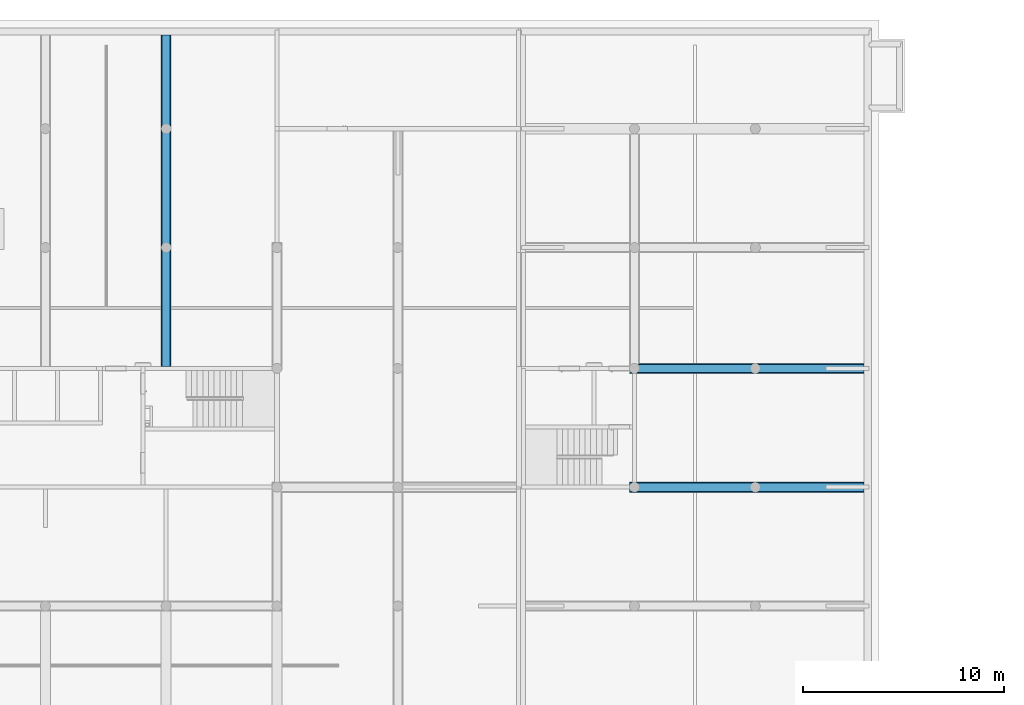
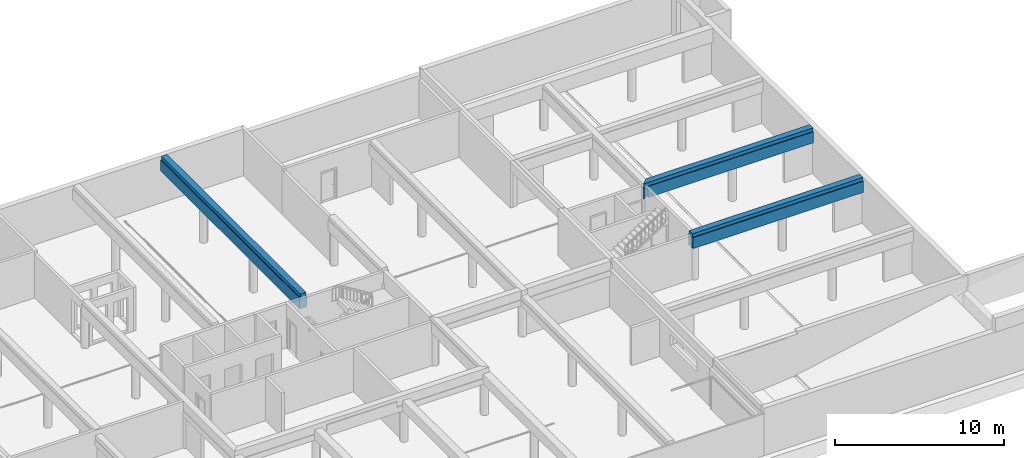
# One storey, part 11 of 25: 3 beams.
"""IFC2X3 building model written with IfcOpenShell, lengths in millimetres."""

from ifc_helpers import new_model, entity, si_unit, converted_unit, derived_unit, money_unit, direction, frame, origin_with_axes, place, context, subcontext, project, spatial, faceted_brep, material, material_list, type_object, element, save


model = new_model("IFC2X3")

# Units and contexts
model_context = context("Model", 3, precision=0.01, world=origin_with_axes(), true_north=direction((0.34421633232, 0.938890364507)))
body_context = subcontext(model_context, "Body", "Model", "MODEL_VIEW")
ifc_project = project(units=[si_unit("LENGTHUNIT", "METRE", prefix="MILLI"), si_unit("AREAUNIT", "SQUARE_METRE"), si_unit("VOLUMEUNIT", "CUBIC_METRE"), converted_unit("PLANEANGLEUNIT", "DEGREE", entity("IfcPlaneAngleMeasure", 0.0174532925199), si_unit("PLANEANGLEUNIT", "RADIAN"), dimensions=[0, 0, 0, 0, 0, 0, 0]), si_unit("SOLIDANGLEUNIT", "STERADIAN"), money_unit("USD"), converted_unit("TIMEUNIT", "Year", entity("IfcTimeMeasure", 31556926.0), si_unit("TIMEUNIT", "SECOND"), dimensions=[0, 0, 1, 0, 0, 0, 0]), si_unit("MASSUNIT", "GRAM", prefix="KILO"), si_unit("THERMODYNAMICTEMPERATUREUNIT", "DEGREE_CELSIUS"), si_unit("LUMINOUSINTENSITYUNIT", "LUMEN"), si_unit("ENERGYUNIT", "JOULE", prefix="MEGA"), derived_unit("THERMALCONDUCTANCEUNIT", [(si_unit("POWERUNIT", "WATT"), 1), (si_unit("LENGTHUNIT", "METRE"), -1), (si_unit("THERMODYNAMICTEMPERATUREUNIT", "KELVIN"), -1)]), derived_unit("SPECIFICHEATCAPACITYUNIT", [(si_unit("ENERGYUNIT", "JOULE"), 1), (si_unit("MASSUNIT", "GRAM", prefix="KILO"), -1), (si_unit("THERMODYNAMICTEMPERATUREUNIT", "KELVIN"), -1)]), derived_unit("MASSDENSITYUNIT", [(si_unit("MASSUNIT", "GRAM", prefix="KILO"), 1), (si_unit("VOLUMEUNIT", "CUBIC_METRE"), -1)])], contexts=[model_context])

# Site, building, storey
site_placement = place(None, origin_with_axes())
site = spatial("IfcSite", under=ifc_project, at=site_placement, Name="USTRONIE MORSKIE", CompositionType="ELEMENT")
building_placement = place(site_placement, origin_with_axes())
building = spatial("IfcBuilding", under=site, at=building_placement, Name="Budynek", CompositionType="ELEMENT")
storey_placement = place(building_placement, frame((0.0, 0.0, -3600.0), z_axis=(0.0, 0.0, 1.0), x_axis=(1.0, 0.0, 0.0)))
storey = spatial("IfcBuildingStorey", under=building, at=storey_placement, Name="GARAZ", CompositionType="ELEMENT", Elevation=-3600.0)

# Beams
ifc_material_1 = material(Name="Termoizolacja WEŁNA SKALNA")
ifc_material_2 = material(Name="Beton konstrukcyjny 01")
ifc_material_list = material_list([ifc_material_1, ifc_material_2])
beam_type = type_object("IfcBeamType", Name="GARAŻ P01 500 x 1050", PredefinedType="NOTDEFINED")
beam_1_placement = place(storey_placement, frame((390817.920919, 732901.199036, 3370.00030619), z_axis=(0.0, 0.0, 1.0), x_axis=(1.0, 0.0, 0.0)))
element("IfcBeam", 1, at=beam_1_placement, inside=storey, type_object=beam_type, material=ifc_material_list, Name="B1", context=body_context, shape_type="Brep", body=[
    faceted_brep([(160.696902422, 11991.5111108, -1000.0), (191.51111078, 11960.6969024, -1000.0), (199.99999553, 11948.5735186, -1000.0), (199.99999553, 16450.0, -1000.00000224), (-200.000002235, 16450.0, -1000.00000224), (-200.000002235, 11948.573509, -1000.0), (-191.51111078, 11960.6969024, -1000.0), (-160.696902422, 11991.5111108, -1000.0), (-125.0, 12016.5063509, -1000.0), (-85.5050358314, 12034.9231552, -1000.0), (-43.4120444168, 12046.2019383, -1000.0), (0.0, 12050.0, -1000.0), (43.4120444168, 12046.2019383, -1000.0), (85.5050358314, 12034.9231552, -1000.0), (125.0, 12016.5063509, -1000.0), (160.696902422, 11991.5111108, -1050.0), (191.51111078, 11960.6969024, -1050.0), (216.506350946, 11925.0, -1050.0), (216.506350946, 11925.0, -1000.0), (199.99999553, 11651.4264814, -1000.0), (199.99999553, 6048.57351859, -1000.0), (199.99999553, 5751.42648141, -1000.0), (199.99999553, 0.0, -1000.00000224), (199.99999553, 0.0, -250.00000447), (199.99999553, 16450.0, -250.00000447), (-250.0, 16450.0, -1050.0), (-250.0, 16450.0, -250.00000447), (-200.000002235, 16450.0, -250.00000447), (249.999993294, 16450.0, -250.00000447), (249.999993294, 16450.0, -1050.0), (-200.000002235, 11651.426491, -1000.0), (-200.000002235, 0.0, -250.00000447), (-200.000002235, 0.0, -1000.00000224), (-200.000002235, 5751.42649099, -1000.0), (-200.000002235, 6048.57350901, -1000.0), (-216.506350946, 11925.0, -1000.0), (-216.506350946, 11925.0, -1050.0), (-191.51111078, 11960.6969024, -1050.0), (-160.696902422, 11991.5111108, -1050.0), (-125.0, 12016.5063509, -1050.0), (-85.5050358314, 12034.9231552, -1050.0), (-43.4120444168, 12046.2019383, -1050.0), (0.0, 12050.0, -1050.0), (43.4120444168, 12046.2019383, -1050.0), (85.5050358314, 12034.9231552, -1050.0), (125.0, 12016.5063509, -1050.0), (-246.201938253, 11843.4120444, -1050.0), (-250.0, 11800.0, -1050.0), (250.0, 11800.0, -1050.0), (246.201938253, 11843.4120444, -1050.0), (234.923155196, 11885.5050358, -1050.0), (-234.923155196, 11885.5050358, -1050.0), (234.923155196, 11885.5050358, -1000.0), (246.201938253, 11843.4120444, -1000.0), (250.0, 11800.0, -1000.0), (246.201938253, 11756.5879556, -1000.0), (234.923155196, 11714.4949642, -1000.0), (216.506350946, 11675.0, -1000.0), (-191.51111078, 11639.3030976, -1000.0), (-191.51111078, 6060.69690242, -1000.0), (-160.696902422, 6091.51111078, -1000.0), (-125.0, 6116.50635095, -1000.0), (-85.5050358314, 6134.9231552, -1000.0), (-43.4120444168, 6146.20193825, -1000.0), (0.0, 6150.0, -1000.0), (43.4120444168, 6146.20193825, -1000.0), (85.5050358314, 6134.9231552, -1000.0), (125.0, 6116.50635095, -1000.0), (160.696902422, 6091.51111078, -1000.0), (191.51111078, 6060.69690242, -1000.0), (191.51111078, 11639.3030976, -1000.0), (160.696902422, 11608.4888892, -1000.0), (125.0, 11583.4936491, -1000.0), (85.5050358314, 11565.0768448, -1000.0), (43.4120444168, 11553.7980617, -1000.0), (0.0, 11550.0, -1000.0), (-43.4120444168, 11553.7980617, -1000.0), (-85.5050358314, 11565.0768448, -1000.0), (-125.0, 11583.4936491, -1000.0), (-160.696902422, 11608.4888892, -1000.0), (216.506350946, 6025.0, -1000.0), (234.923155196, 5985.50503583, -1000.0), (246.201938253, 5943.41204442, -1000.0), (250.0, 5900.0, -1000.0), (246.201938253, 5856.58795558, -1000.0), (234.923155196, 5814.49496417, -1000.0), (216.506350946, 5775.0, -1000.0), (-191.51111078, 5739.30309758, -1000.0), (191.51111078, 5739.30309758, -1000.0), (160.696902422, 5708.48888922, -1000.0), (125.0, 5683.49364905, -1000.0), (85.5050358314, 5665.0768448, -1000.0), (43.4120444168, 5653.79806175, -1000.0), (0.0, 5650.0, -1000.0), (-43.4120444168, 5653.79806175, -1000.0), (-85.5050358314, 5665.0768448, -1000.0), (-125.0, 5683.49364905, -1000.0), (-160.696902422, 5708.48888922, -1000.0), (-250.0, 0.0, -250.00000447), (-250.0, 0.0, -1050.0), (249.999993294, 0.0, -1050.0), (249.999993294, 0.0, -250.00000447), (-250.0, 5900.0, -1050.0), (250.0, 5900.0, -1050.0), (-216.506350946, 11675.0, -1000.0), (-234.923155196, 11714.4949642, -1000.0), (-246.201938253, 11756.5879556, -1000.0), (-250.0, 11800.0, -1000.0), (-246.201938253, 11843.4120444, -1000.0), (-234.923155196, 11885.5050358, -1000.0), (-216.506350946, 5775.0, -1000.0), (-234.923155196, 5814.49496417, -1000.0), (-246.201938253, 5856.58795558, -1000.0), (-250.0, 5900.0, -1000.0), (-246.201938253, 5943.41204442, -1000.0), (-234.923155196, 5985.50503583, -1000.0), (-216.506350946, 6025.0, -1000.0), (246.201938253, 11756.5879556, -1050.0), (234.923155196, 11714.4949642, -1050.0), (216.506350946, 11675.0, -1050.0), (191.51111078, 11639.3030976, -1050.0), (-191.51111078, 11639.3030976, -1050.0), (-216.506350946, 11675.0, -1050.0), (-216.506350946, 6025.0, -1050.0), (-191.51111078, 6060.69690242, -1050.0), (-160.696902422, 6091.51111078, -1050.0), (-125.0, 6116.50635095, -1050.0), (-85.5050358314, 6134.9231552, -1050.0), (-43.4120444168, 6146.20193825, -1050.0), (0.0, 6150.0, -1050.0), (43.4120444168, 6146.20193825, -1050.0), (85.5050358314, 6134.9231552, -1050.0), (125.0, 6116.50635095, -1050.0), (160.696902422, 6091.51111078, -1050.0), (191.51111078, 6060.69690242, -1050.0), (216.506350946, 6025.0, -1050.0), (160.696902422, 11608.4888892, -1050.0), (125.0, 11583.4936491, -1050.0), (85.5050358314, 11565.0768448, -1050.0), (43.4120444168, 11553.7980617, -1050.0), (0.0, 11550.0, -1050.0), (-43.4120444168, 11553.7980617, -1050.0), (-85.5050358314, 11565.0768448, -1050.0), (-125.0, 11583.4936491, -1050.0), (-160.696902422, 11608.4888892, -1050.0), (234.923155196, 5985.50503583, -1050.0), (246.201938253, 5943.41204442, -1050.0), (246.201938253, 5856.58795558, -1050.0), (234.923155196, 5814.49496417, -1050.0), (216.506350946, 5775.0, -1050.0), (191.51111078, 5739.30309758, -1050.0), (-191.51111078, 5739.30309758, -1050.0), (-216.506350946, 5775.0, -1050.0), (160.696902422, 5708.48888922, -1050.0), (125.0, 5683.49364905, -1050.0), (85.5050358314, 5665.0768448, -1050.0), (43.4120444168, 5653.79806175, -1050.0), (0.0, 5650.0, -1050.0), (-43.4120444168, 5653.79806175, -1050.0), (-85.5050358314, 5665.0768448, -1050.0), (-125.0, 5683.49364905, -1050.0), (-160.696902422, 5708.48888922, -1050.0), (-246.201938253, 5856.58795558, -1050.0), (-234.923155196, 5814.49496417, -1050.0), (-234.923155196, 5985.50503583, -1050.0), (-246.201938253, 5943.41204442, -1050.0), (-246.201938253, 11756.5879556, -1050.0), (-234.923155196, 11714.4949642, -1050.0)], [[[0, 1, 2, 3, 4, 5, 6, 7, 8, 9, 10, 11, 12, 13, 14]], [[1, 0, 15, 16]], [[16, 17, 18, 2, 1]], [[2, 19, 20, 21, 22, 23, 24, 3]], [[25, 26, 27, 4, 3, 24, 28, 29]], [[30, 5, 4, 27, 31, 32, 33, 34]], [[6, 5, 35, 36, 37]], [[7, 6, 37, 38]], [[8, 7, 38, 39]], [[9, 8, 39, 40]], [[10, 9, 40, 41]], [[11, 10, 41, 42]], [[12, 11, 42, 43]], [[13, 12, 43, 44]], [[14, 13, 44, 45]], [[0, 14, 45, 15]], [[46, 47, 25, 29, 48, 49, 50, 17, 16, 15, 45, 44, 43, 42, 41, 40, 39, 38, 37, 36, 51]], [[17, 50, 52, 18]], [[19, 2, 18, 52, 53, 54, 55, 56, 57]], [[58, 30, 34, 59, 60, 61, 62, 63, 64, 65, 66, 67, 68, 69, 20, 19, 70, 71, 72, 73, 74, 75, 76, 77, 78, 79]], [[21, 20, 80, 81, 82, 83, 84, 85, 86]], [[87, 33, 32, 22, 21, 88, 89, 90, 91, 92, 93, 94, 95, 96, 97]], [[22, 32, 31, 98, 99, 100, 101, 23]], [[23, 101, 28, 24]], [[99, 98, 26, 25, 47, 102]], [[98, 31, 27, 26]], [[101, 100, 103, 48, 29, 28]], [[5, 30, 104, 105, 106, 107, 108, 109, 35]], [[34, 33, 110, 111, 112, 113, 114, 115, 116]], [[51, 36, 35, 109]], [[47, 46, 108, 107]], [[49, 48, 54, 53]], [[50, 49, 53, 52]], [[46, 51, 109, 108]], [[48, 117, 55, 54]], [[117, 118, 56, 55]], [[118, 119, 57, 56]], [[119, 120, 70, 19, 57]], [[30, 58, 121, 122, 104]], [[59, 34, 116, 123, 124]], [[60, 59, 124, 125]], [[61, 60, 125, 126]], [[62, 61, 126, 127]], [[63, 62, 127, 128]], [[64, 63, 128, 129]], [[65, 64, 129, 130]], [[66, 65, 130, 131]], [[67, 66, 131, 132]], [[68, 67, 132, 133]], [[69, 68, 133, 134]], [[134, 135, 80, 20, 69]], [[71, 70, 120, 136]], [[72, 71, 136, 137]], [[73, 72, 137, 138]], [[74, 73, 138, 139]], [[75, 74, 139, 140]], [[76, 75, 140, 141]], [[77, 76, 141, 142]], [[78, 77, 142, 143]], [[79, 78, 143, 144]], [[58, 79, 144, 121]], [[135, 145, 81, 80]], [[145, 146, 82, 81]], [[146, 103, 83, 82]], [[103, 147, 84, 83]], [[147, 148, 85, 84]], [[148, 149, 86, 85]], [[149, 150, 88, 21, 86]], [[33, 87, 151, 152, 110]], [[89, 88, 150, 153]], [[90, 89, 153, 154]], [[91, 90, 154, 155]], [[92, 91, 155, 156]], [[93, 92, 156, 157]], [[94, 93, 157, 158]], [[95, 94, 158, 159]], [[96, 95, 159, 160]], [[97, 96, 160, 161]], [[87, 97, 161, 151]], [[148, 147, 103, 100, 99, 102, 162, 163, 152, 151, 161, 160, 159, 158, 157, 156, 155, 154, 153, 150, 149]], [[118, 117, 48, 103, 146, 145, 135, 134, 133, 132, 131, 130, 129, 128, 127, 126, 125, 124, 123, 164, 165, 102, 47, 166, 167, 122, 121, 144, 143, 142, 141, 140, 139, 138, 137, 136, 120, 119]], [[122, 167, 105, 104]], [[167, 166, 106, 105]], [[166, 47, 107, 106]], [[152, 163, 111, 110]], [[163, 162, 112, 111]], [[162, 102, 113, 112]], [[102, 165, 114, 113]], [[165, 164, 115, 114]], [[164, 123, 116, 115]]]),
    faceted_brep([(200.0, 0.0, -1000.0), (200.0, 16450.0, -1000.0), (199.99999553, 16450.0, -250.00000447), (199.99999553, 0.0, -250.00000447), (-200.0, 0.0, -1000.0), (-200.0, 16450.0, -1000.0), (-200.000002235, 16450.0, -250.00000447), (-200.0, 16450.0, 0.0), (200.0, 16450.0, 0.0), (200.0, 0.0, 0.0), (-200.0, 0.0, 0.0), (-200.000002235, 0.0, -250.00000447)], [[[0, 1, 2, 3]], [[4, 5, 1, 0]], [[2, 1, 5, 6, 7, 8]], [[3, 2, 8, 9]], [[4, 0, 3, 9, 10, 11]], [[11, 6, 5, 4]], [[10, 7, 6, 11]], [[9, 8, 7, 10]]]),
])
beam_2_placement = place(storey_placement, frame((413817.920955, 726901.199036, 3370.00030619), z_axis=(0.0, 0.0, 1.0), x_axis=(0.0, -1.0, 0.0)))
element("IfcBeam", 2, at=beam_2_placement, inside=storey, type_object=beam_type, material=ifc_material_list, Name="B1", context=body_context, shape_type="Brep", body=[
    faceted_brep([(-228.1640424, 149.999964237, -1000.0), (-228.1640424, 149.999964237, -1050.0), (-250.0, 149.999964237, -1050.0), (-250.0, 149.999964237, -250.00000447), (-200.000002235, 149.999964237, -250.00000447), (-200.000002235, 149.999964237, -1000.0), (-216.506350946, 124.999964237, -1000.0), (-216.506350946, 124.999964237, -1050.0), (-125.0, 33.4936132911, -1050.0), (-100.0, 21.8359218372, -1050.0), (-100.0, 0.0, -1050.0), (-250.0, 0.0, -1050.0), (-191.51111078, 89.3030618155, -1050.0), (-160.696902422, 58.4888534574, -1050.0), (-250.0, 0.0, -250.00000447), (-200.000002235, 0.0, -250.00000447), (-200.000002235, 101.426455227, -1000.0), (-200.000002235, 0.0, -1000.00000224), (-191.51111078, 89.3030618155, -1000.0), (-125.0, 33.4936132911, -1000.0), (-100.0, 21.8359218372, -1000.0), (-100.0, 0.0, -1000.00000224), (-160.696902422, 58.4888534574, -1000.0)], [[[0, 1, 2, 3, 4, 5]], [[1, 0, 6, 7]], [[8, 9, 10, 11, 2, 1, 7, 12, 13]], [[14, 3, 2, 11]], [[15, 4, 3, 14]], [[16, 5, 4, 15, 17]], [[0, 5, 16, 6]], [[12, 7, 6, 16, 18]], [[19, 20, 9, 8]], [[9, 20, 21, 10]], [[11, 10, 21, 17, 15, 14]], [[18, 22, 13, 12]], [[22, 19, 8, 13]], [[18, 16, 17, 21, 20, 19, 22]]]),
    faceted_brep([(85.5050358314, 6484.92311943, -1050.0), (43.4120444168, 6496.20190249, -1050.0), (0.0, 6499.99996424, -1050.0), (-43.4120444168, 6496.20190249, -1050.0), (-85.5050358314, 6484.92311943, -1050.0), (-125.0, 6466.50631518, -1050.0), (-160.696902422, 6441.51107502, -1050.0), (-191.51111078, 6410.69686666, -1050.0), (-216.506350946, 6374.99996424, -1050.0), (-234.923155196, 6335.50500007, -1050.0), (-246.201938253, 6293.41200865, -1050.0), (-250.0, 6249.99996424, -1050.0), (-250.0, 11649.9999642, -1050.0), (-100.0, 11649.9999642, -1050.0), (-100.0, 9749.99996424, -1050.0), (100.0, 9749.99996424, -1050.0), (100.0, 11649.9999642, -1050.0), (249.999993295, 11649.9999642, -1050.0), (250.0, 6249.99996424, -1050.0), (246.201938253, 6293.41200865, -1050.0), (234.923155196, 6335.50500007, -1050.0), (216.506350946, 6374.99996424, -1050.0), (191.51111078, 6410.69686666, -1050.0), (160.696902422, 6441.51107502, -1050.0), (125.0, 6466.50631518, -1050.0), (85.5050358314, 6484.92311943, -1000.0), (43.4120444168, 6496.20190249, -1000.0), (0.0, 6499.99996424, -1000.0), (-43.4120444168, 6496.20190249, -1000.0), (-85.5050358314, 6484.92311943, -1000.0), (-125.0, 6466.50631518, -1000.0), (-160.696902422, 6441.51107502, -1000.0), (-191.51111078, 6410.69686666, -1000.0), (-200.000002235, 6398.57347325, -1000.0), (-216.506350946, 6374.99996424, -1000.0), (-234.923155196, 6335.50500007, -1000.0), (-246.201938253, 6293.41200865, -1000.0), (-250.0, 6249.99996424, -1000.0), (-250.0, 349.999964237, -1050.0), (-250.0, 349.999964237, -250.00000447), (-250.0, 11649.9999642, -250.00000447), (-200.000002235, 11649.9999642, -1000.00000224), (-100.0, 11649.9999642, -1000.00029874), (-200.000002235, 11649.9999642, -250.00000447), (-100.0, 9749.99996424, -1000.00029874), (100.0, 9749.99996424, -1000.00029874), (100.0, 11649.9999642, -1000.00029874), (199.99999553, 11649.9999642, -1000.00000224), (199.99999553, 11649.9999642, -250.00000447), (249.999993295, 11649.9999642, -250.00000447), (249.999993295, 0.0, -250.00000447), (249.999993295, 0.0, -1050.0), (250.0, 249.999964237, -1050.0), (250.0, 6249.99996424, -1000.0), (246.201938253, 6293.41200865, -1000.0), (234.923155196, 6335.50500007, -1000.0), (216.506350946, 6374.99996424, -1000.0), (199.99999553, 6398.57348282, -1000.0), (191.51111078, 6410.69686666, -1000.0), (160.696902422, 6441.51107502, -1000.0), (125.0, 6466.50631518, -1000.0), (-200.000002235, 6101.42645523, -1000.0), (-216.506350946, 6124.99996424, -1000.0), (-234.923155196, 6164.49492841, -1000.0), (-246.201938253, 6206.58791982, -1000.0), (-246.201938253, 6206.58791982, -1050.0), (246.201938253, 6206.58791982, -1050.0), (246.201938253, 293.412008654, -1050.0), (234.923155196, 335.505000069, -1050.0), (216.506350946, 374.999964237, -1050.0), (191.51111078, 410.696866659, -1050.0), (160.696902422, 441.511075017, -1050.0), (125.0, 466.506315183, -1050.0), (85.5050358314, 484.923119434, -1050.0), (43.4120444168, 496.20190249, -1050.0), (0.0, 499.999964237, -1050.0), (-43.4120444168, 496.20190249, -1050.0), (-85.5050358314, 484.923119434, -1050.0), (-125.0, 466.506315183, -1050.0), (-160.696902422, 441.511075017, -1050.0), (-191.51111078, 410.696866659, -1050.0), (-216.506350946, 374.999964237, -1050.0), (-228.1640424, 349.999964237, -1050.0), (-234.923155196, 6164.49492841, -1050.0), (-216.506350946, 6124.99996424, -1050.0), (-191.51111078, 6089.30306182, -1050.0), (-160.696902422, 6058.48885346, -1050.0), (-125.0, 6033.49361329, -1050.0), (-85.5050358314, 6015.07680904, -1050.0), (-43.4120444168, 6003.79802598, -1050.0), (0.0, 5999.99996424, -1050.0), (43.4120444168, 6003.79802598, -1050.0), (85.5050358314, 6015.07680904, -1050.0), (125.0, 6033.49361329, -1050.0), (160.696902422, 6058.48885346, -1050.0), (191.51111078, 6089.30306182, -1050.0), (216.506350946, 6124.99996424, -1050.0), (234.923155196, 6164.49492841, -1050.0), (-228.1640424, 349.999964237, -1000.0), (-200.000002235, 349.999964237, -1000.0), (-200.000002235, 349.999964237, -250.00000447), (-200.000002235, 398.573473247, -1000.0), (199.99999553, 6101.42644565, -1000.0), (199.99999553, 398.573482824, -1000.0), (199.99999553, 101.426445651, -1000.0), (199.99999553, 0.0, -1000.00000224), (199.99999553, 0.0, -250.00000447), (100.0, 0.0, -1000.00000224), (100.0, 0.0, -1050.0), (246.201938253, 206.58791982, -1050.0), (100.0, 21.8359218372, -1050.0), (125.0, 33.4936132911, -1050.0), (160.696902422, 58.4888534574, -1050.0), (191.51111078, 89.3030618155, -1050.0), (216.506350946, 124.999964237, -1050.0), (234.923155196, 164.494928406, -1050.0), (246.201938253, 6206.58791982, -1000.0), (234.923155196, 6164.49492841, -1000.0), (216.506350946, 6124.99996424, -1000.0), (-191.51111078, 6089.30306182, -1000.0), (250.0, 249.999964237, -1000.0), (246.201938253, 293.412008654, -1000.0), (234.923155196, 335.505000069, -1000.0), (216.506350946, 374.999964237, -1000.0), (191.51111078, 410.696866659, -1000.0), (160.696902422, 441.511075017, -1000.0), (125.0, 466.506315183, -1000.0), (85.5050358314, 484.923119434, -1000.0), (43.4120444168, 496.20190249, -1000.0), (0.0, 499.999964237, -1000.0), (-43.4120444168, 496.20190249, -1000.0), (-85.5050358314, 484.923119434, -1000.0), (-125.0, 466.506315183, -1000.0), (-160.696902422, 441.511075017, -1000.0), (-191.51111078, 410.696866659, -1000.0), (-216.506350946, 374.999964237, -1000.0), (-160.696902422, 6058.48885346, -1000.0), (-125.0, 6033.49361329, -1000.0), (-85.5050358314, 6015.07680904, -1000.0), (-43.4120444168, 6003.79802598, -1000.0), (0.0, 5999.99996424, -1000.0), (43.4120444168, 6003.79802598, -1000.0), (85.5050358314, 6015.07680904, -1000.0), (125.0, 6033.49361329, -1000.0), (160.696902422, 6058.48885346, -1000.0), (191.51111078, 6089.30306182, -1000.0), (246.201938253, 206.58791982, -1000.0), (234.923155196, 164.494928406, -1000.0), (216.506350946, 124.999964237, -1000.0), (125.0, 33.4936132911, -1000.0), (100.0, 21.8359218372, -1000.0), (191.51111078, 89.3030618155, -1000.0), (160.696902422, 58.4888534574, -1000.0)], [[[0, 1, 2, 3, 4, 5, 6, 7, 8, 9, 10, 11, 12, 13, 14, 15, 16, 17, 18, 19, 20, 21, 22, 23, 24]], [[25, 26, 1, 0]], [[26, 27, 2, 1]], [[27, 28, 3, 2]], [[28, 29, 4, 3]], [[29, 30, 5, 4]], [[30, 31, 6, 5]], [[31, 32, 7, 6]], [[32, 33, 34, 8, 7]], [[9, 8, 34, 35]], [[10, 9, 35, 36]], [[11, 10, 36, 37]], [[11, 38, 39, 40, 12]], [[41, 42, 13, 12, 40, 43]], [[14, 13, 42, 44]], [[14, 44, 45, 15]], [[15, 45, 46, 16]], [[17, 16, 46, 47, 48, 49]], [[50, 51, 52, 18, 17, 49]], [[19, 18, 53, 54]], [[20, 19, 54, 55]], [[21, 20, 55, 56]], [[57, 58, 22, 21, 56]], [[58, 59, 23, 22]], [[59, 60, 24, 23]], [[60, 25, 0, 24]], [[29, 28, 27, 26, 25, 60, 59, 58, 57, 47, 46, 45, 44, 42, 41, 33, 32, 31, 30]], [[33, 61, 62, 63, 64, 37, 36, 35, 34]], [[65, 11, 37, 64]], [[66, 18, 52, 67, 68, 69, 70, 71, 72, 73, 74, 75, 76, 77, 78, 79, 80, 81, 82, 38, 11, 65, 83, 84, 85, 86, 87, 88, 89, 90, 91, 92, 93, 94, 95, 96, 97]], [[98, 99, 100, 39, 38, 82]], [[40, 39, 100, 43]], [[61, 33, 41, 43, 100, 99, 101]], [[57, 102, 103, 104, 105, 106, 48, 47]], [[106, 50, 49, 48]], [[105, 107, 108, 51, 50, 106]], [[109, 52, 51, 108, 110, 111, 112, 113, 114, 115]], [[18, 66, 116, 53]], [[102, 57, 56, 55, 54, 53, 116, 117, 118]], [[85, 84, 62, 61, 119]], [[84, 83, 63, 62]], [[83, 65, 64, 63]], [[67, 52, 120, 121]], [[68, 67, 121, 122]], [[69, 68, 122, 123]], [[103, 124, 70, 69, 123]], [[124, 125, 71, 70]], [[125, 126, 72, 71]], [[126, 127, 73, 72]], [[127, 128, 74, 73]], [[128, 129, 75, 74]], [[129, 130, 76, 75]], [[130, 131, 77, 76]], [[131, 132, 78, 77]], [[132, 133, 79, 78]], [[133, 134, 80, 79]], [[134, 101, 135, 81, 80]], [[82, 81, 135, 98]], [[119, 136, 86, 85]], [[136, 137, 87, 86]], [[137, 138, 88, 87]], [[138, 139, 89, 88]], [[139, 140, 90, 89]], [[140, 141, 91, 90]], [[141, 142, 92, 91]], [[142, 143, 93, 92]], [[143, 144, 94, 93]], [[144, 145, 95, 94]], [[96, 95, 145, 102, 118]], [[97, 96, 118, 117]], [[66, 97, 117, 116]], [[101, 99, 98, 135]], [[119, 61, 101, 134, 133, 132, 131, 130, 129, 128, 127, 126, 125, 124, 103, 102, 145, 144, 143, 142, 141, 140, 139, 138, 137, 136]], [[104, 103, 123, 122, 121, 120, 146, 147, 148]], [[149, 150, 107, 105, 104, 151, 152]], [[150, 110, 108, 107]], [[52, 109, 146, 120]], [[150, 149, 111, 110]], [[149, 152, 112, 111]], [[152, 151, 113, 112]], [[114, 113, 151, 104, 148]], [[115, 114, 148, 147]], [[109, 115, 147, 146]]]),
    faceted_brep([(200.0, 0.0, -1000.0), (200.0, 11649.9999642, -1000.0), (199.99999553, 11649.9999642, -250.00000447), (199.99999553, 0.0, -250.00000447), (-200.0, 0.0, -1000.0), (-200.0, 11649.9999642, -1000.0), (-200.000002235, 11649.9999642, -250.00000447), (-200.0, 11649.9999642, 0.0), (200.0, 11649.9999642, 0.0), (200.0, 0.0, 0.0), (-200.0, 0.0, 0.0), (-200.000002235, 0.0, -250.00000447)], [[[0, 1, 2, 3]], [[4, 5, 1, 0]], [[2, 1, 5, 6, 7, 8]], [[3, 2, 8, 9]], [[4, 0, 3, 9, 10, 11]], [[11, 6, 5, 4]], [[10, 7, 6, 11]], [[9, 8, 7, 10]]]),
])
beam_3_placement = place(storey_placement, frame((414067.920919, 732801.199036, 3370.00030619), z_axis=(0.0, 0.0, 1.0), x_axis=(0.0, -1.0, 0.0)))
element("IfcBeam", 3, at=beam_3_placement, inside=storey, type_object=beam_type, material=ifc_material_list, Name="B1", context=body_context, shape_type="Brep", body=[
    faceted_brep([(228.1640424, -100.0, -1050.0), (228.1640424, -100.0, -1000.0), (199.99999553, -100.0, -1000.0), (199.99999553, -100.0, -250.00000447), (249.999993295, -100.0, -250.00000447), (249.999993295, -100.0, -1050.0), (216.506350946, -125.0, -1050.0), (216.506350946, -125.0, -1000.0), (199.99999553, -148.573518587, -1000.0), (199.99999553, -200.000002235, -1000.00000224), (199.99999553, -200.000002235, -250.00000447), (249.999993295, -250.0, -250.00000447), (249.999993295, -250.0, -1050.0), (176.104003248, -176.104009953, -1050.0), (191.51111078, -160.696902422, -1050.0), (191.51111078, -160.696902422, -1000.0), (176.104003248, -176.104009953, -1000.0)], [[[0, 1, 2, 3, 4, 5]], [[1, 0, 6, 7]], [[8, 2, 1, 7]], [[2, 8, 9, 10, 3]], [[11, 4, 3, 10]], [[12, 5, 4, 11]], [[6, 0, 5, 12, 13, 14]], [[6, 14, 15, 8, 7]], [[15, 16, 9, 8]], [[16, 13, 12, 11, 10, 9]], [[16, 15, 14, 13]]]),
    faceted_brep([(85.5050358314, 6234.9231552, -1050.0), (43.4120444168, 6246.20193825, -1050.0), (0.0, 6250.0, -1050.0), (-43.4120444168, 6246.20193825, -1050.0), (-85.5050358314, 6234.9231552, -1050.0), (-125.0, 6216.50635095, -1050.0), (-160.696902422, 6191.51111078, -1050.0), (-191.51111078, 6160.69690242, -1050.0), (-216.506350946, 6125.0, -1050.0), (-234.923155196, 6085.50503583, -1050.0), (-246.201938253, 6043.41204442, -1050.0), (-250.0, 6000.0, -1050.0), (-250.0, 11400.0, -1050.0), (-100.0, 11400.0, -1050.0), (-100.0, 9500.0, -1050.0), (100.0, 9500.0, -1050.0), (100.0, 11400.0, -1050.0), (249.999993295, 11400.0, -1050.0), (250.0, 6000.0, -1050.0), (246.201938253, 6043.41204442, -1050.0), (234.923155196, 6085.50503583, -1050.0), (216.506350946, 6125.0, -1050.0), (191.51111078, 6160.69690242, -1050.0), (160.696902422, 6191.51111078, -1050.0), (125.0, 6216.50635095, -1050.0), (85.5050358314, 6234.9231552, -1000.0), (43.4120444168, 6246.20193825, -1000.0), (0.0, 6250.0, -1000.0), (-43.4120444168, 6246.20193825, -1000.0), (-85.5050358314, 6234.9231552, -1000.0), (-125.0, 6216.50635095, -1000.0), (-160.696902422, 6191.51111078, -1000.0), (-191.51111078, 6160.69690242, -1000.0), (-200.000002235, 6148.57350901, -1000.0), (-216.506350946, 6125.0, -1000.0), (-234.923155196, 6085.50503583, -1000.0), (-246.201938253, 6043.41204442, -1000.0), (-250.0, 6000.0, -1000.0), (-250.0, 249.999993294, -1050.0), (-250.0, 249.999993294, -250.00000447), (-250.0, 11400.0, -250.00000447), (-200.000002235, 11400.0, -1000.00000224), (-100.0, 11400.0, -1000.00029874), (-200.000002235, 11400.0, -250.00000447), (-100.0, 9500.0, -1000.00029874), (100.0, 9500.0, -1000.00029874), (100.0, 11400.0, -1000.00029874), (199.99999553, 11400.0, -1000.00000224), (199.99999553, 11400.0, -250.00000447), (249.999993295, 11400.0, -250.00000447), (249.999993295, 100.0, -250.00000447), (249.999993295, 100.0, -1050.0), (250.0, 6000.0, -1000.0), (246.201938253, 6043.41204442, -1000.0), (234.923155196, 6085.50503583, -1000.0), (216.506350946, 6125.0, -1000.0), (199.99999553, 6148.57351859, -1000.0), (191.51111078, 6160.69690242, -1000.0), (160.696902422, 6191.51111078, -1000.0), (125.0, 6216.50635095, -1000.0), (-200.000002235, 5851.42649099, -1000.0), (-216.506350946, 5875.0, -1000.0), (-234.923155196, 5914.49496417, -1000.0), (-246.201938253, 5956.58795558, -1000.0), (-246.201938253, 5956.58795558, -1050.0), (-176.104008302, 176.1040049, -1050.0), (-176.104009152, 176.104004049, -1000.0), (-200.000002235, 199.99999553, -1000.00000224), (-200.000002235, 199.99999553, -250.00000447), (246.201938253, 5956.58795558, -1050.0), (228.1640424, 100.0, -1050.0), (216.506350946, 125.0, -1050.0), (191.51111078, 160.696902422, -1050.0), (160.696902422, 191.51111078, -1050.0), (125.0, 216.506350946, -1050.0), (85.5050358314, 234.923155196, -1050.0), (43.4120444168, 246.201938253, -1050.0), (0.0, 250.0, -1050.0), (-43.4120444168, 246.201938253, -1050.0), (-85.5050358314, 234.923155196, -1050.0), (-125.0, 216.506350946, -1050.0), (-160.696902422, 191.51111078, -1050.0), (-234.923155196, 5914.49496417, -1050.0), (-216.506350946, 5875.0, -1050.0), (-191.51111078, 5839.30309758, -1050.0), (-160.696902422, 5808.48888922, -1050.0), (-125.0, 5783.49364905, -1050.0), (-85.5050358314, 5765.0768448, -1050.0), (-43.4120444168, 5753.79806175, -1050.0), (0.0, 5750.0, -1050.0), (43.4120444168, 5753.79806175, -1050.0), (85.5050358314, 5765.0768448, -1050.0), (125.0, 5783.49364905, -1050.0), (160.696902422, 5808.48888922, -1050.0), (191.51111078, 5839.30309758, -1050.0), (216.506350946, 5875.0, -1050.0), (234.923155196, 5914.49496417, -1050.0), (199.99999553, 5851.42648141, -1000.0), (199.99999553, 148.573518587, -1000.0), (199.99999553, 100.0, -1000.0), (199.99999553, 100.0, -250.00000447), (228.1640424, 100.0, -1000.0), (246.201938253, 5956.58795558, -1000.0), (234.923155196, 5914.49496417, -1000.0), (216.506350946, 5875.0, -1000.0), (-191.51111078, 5839.30309758, -1000.0), (-160.696902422, 191.51111078, -1000.0), (-125.0, 216.506350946, -1000.0), (-85.5050358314, 234.923155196, -1000.0), (-43.4120444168, 246.201938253, -1000.0), (0.0, 250.0, -1000.0), (43.4120444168, 246.201938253, -1000.0), (85.5050358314, 234.923155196, -1000.0), (125.0, 216.506350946, -1000.0), (160.696902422, 191.51111078, -1000.0), (191.51111078, 160.696902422, -1000.0), (191.51111078, 5839.30309758, -1000.0), (160.696902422, 5808.48888922, -1000.0), (125.0, 5783.49364905, -1000.0), (85.5050358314, 5765.0768448, -1000.0), (43.4120444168, 5753.79806175, -1000.0), (0.0, 5750.0, -1000.0), (-43.4120444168, 5753.79806175, -1000.0), (-85.5050358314, 5765.0768448, -1000.0), (-125.0, 5783.49364905, -1000.0), (-160.696902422, 5808.48888922, -1000.0), (216.506350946, 125.0, -1000.0)], [[[0, 1, 2, 3, 4, 5, 6, 7, 8, 9, 10, 11, 12, 13, 14, 15, 16, 17, 18, 19, 20, 21, 22, 23, 24]], [[25, 26, 1, 0]], [[26, 27, 2, 1]], [[27, 28, 3, 2]], [[28, 29, 4, 3]], [[29, 30, 5, 4]], [[30, 31, 6, 5]], [[31, 32, 7, 6]], [[32, 33, 34, 8, 7]], [[9, 8, 34, 35]], [[10, 9, 35, 36]], [[11, 10, 36, 37]], [[38, 39, 40, 12, 11]], [[41, 42, 13, 12, 40, 43]], [[14, 13, 42, 44]], [[14, 44, 45, 15]], [[15, 45, 46, 16]], [[17, 16, 46, 47, 48, 49]], [[49, 50, 51, 18, 17]], [[19, 18, 52, 53]], [[20, 19, 53, 54]], [[21, 20, 54, 55]], [[56, 57, 22, 21, 55]], [[57, 58, 23, 22]], [[58, 59, 24, 23]], [[59, 25, 0, 24]], [[29, 28, 27, 26, 25, 59, 58, 57, 56, 47, 46, 45, 44, 42, 41, 33, 32, 31, 30]], [[33, 60, 61, 62, 63, 37, 36, 35, 34]], [[64, 11, 37, 63]], [[65, 66, 67, 68, 39, 38]], [[39, 68, 43, 40]], [[69, 18, 51, 70, 71, 72, 73, 74, 75, 76, 77, 78, 79, 80, 81, 65, 38, 11, 64, 82, 83, 84, 85, 86, 87, 88, 89, 90, 91, 92, 93, 94, 95, 96]], [[60, 33, 41, 43, 68, 67]], [[56, 97, 98, 99, 100, 48, 47]], [[48, 100, 50, 49]], [[101, 70, 51, 50, 100, 99]], [[18, 69, 102, 52]], [[97, 56, 55, 54, 53, 52, 102, 103, 104]], [[84, 83, 61, 60, 105]], [[83, 82, 62, 61]], [[82, 64, 63, 62]], [[106, 66, 65, 81]], [[105, 60, 67, 66, 106, 107, 108, 109, 110, 111, 112, 113, 114, 115, 98, 97, 116, 117, 118, 119, 120, 121, 122, 123, 124, 125]], [[71, 70, 101, 126]], [[98, 115, 72, 71, 126]], [[115, 114, 73, 72]], [[114, 113, 74, 73]], [[113, 112, 75, 74]], [[112, 111, 76, 75]], [[111, 110, 77, 76]], [[110, 109, 78, 77]], [[109, 108, 79, 78]], [[108, 107, 80, 79]], [[107, 106, 81, 80]], [[105, 125, 85, 84]], [[125, 124, 86, 85]], [[124, 123, 87, 86]], [[123, 122, 88, 87]], [[122, 121, 89, 88]], [[121, 120, 90, 89]], [[120, 119, 91, 90]], [[119, 118, 92, 91]], [[118, 117, 93, 92]], [[117, 116, 94, 93]], [[95, 94, 116, 97, 104]], [[96, 95, 104, 103]], [[69, 96, 103, 102]], [[99, 98, 126, 101]]]),
    faceted_brep([(200.0, -200.000006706, -1000.0), (200.0, 11400.0, -1000.0), (199.99999553, 11400.0, -250.00000447), (199.99999553, -200.000002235, -250.00000447), (-200.0, 199.999993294, -1000.0), (-200.0, 11400.0, -1000.0), (-200.000002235, 11400.0, -250.00000447), (-200.0, 11400.0, 0.0), (200.0, 11400.0, 0.0), (200.0, -200.000006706, 0.0), (-200.0, 199.999993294, 0.0), (-200.000002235, 199.99999553, -250.00000447)], [[[0, 1, 2, 3]], [[4, 5, 1, 0]], [[2, 1, 5, 6, 7, 8]], [[3, 2, 8, 9]], [[4, 0, 3, 9, 10, 11]], [[11, 6, 5, 4]], [[10, 7, 6, 11]], [[9, 8, 7, 10]]]),
])

save(model, "model.ifc")
